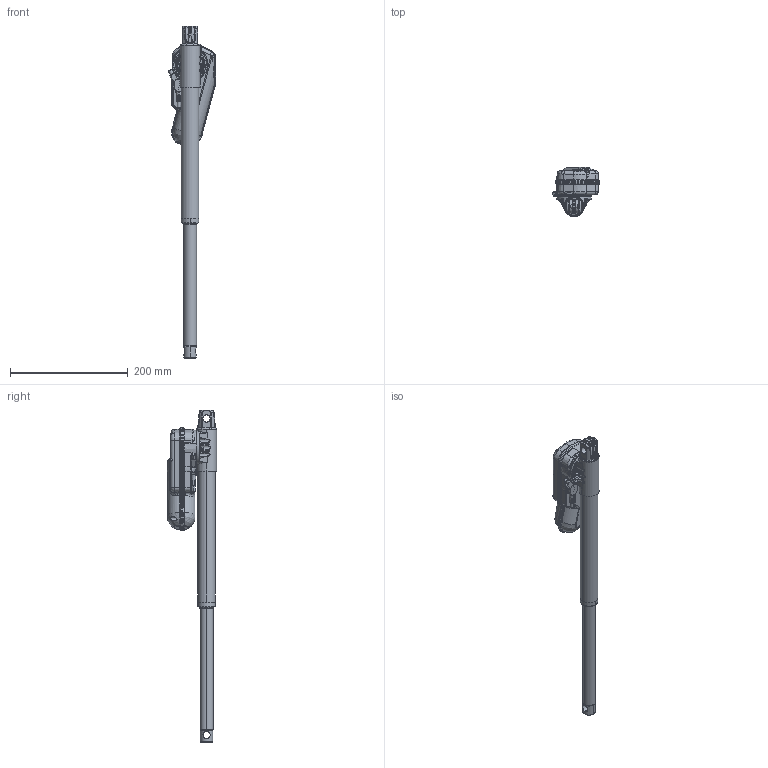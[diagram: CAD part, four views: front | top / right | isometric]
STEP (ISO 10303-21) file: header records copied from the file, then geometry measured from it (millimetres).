
FILE_DESCRIPTION((''),'2;1');
FILE_NAME('1068W4011_ASM','2023-06-12T12:17:47',('ulj'),(''),'CREO PARAMETRIC BY PTC INC, 2022024','CREO PARAMETRIC BY PTC INC, 2022024','');
FILE_SCHEMA(('AUTOMOTIVE_DESIGN { 1 0 10303 214 1 1 1 1 }'));
Length unit declared in the file: millimetre
Products named in the file (9): 1068W4011-MO; 1068W4011-PR; 1068W4011-OT; 1068W4011-BF; 1068W4011-BODY; 1068W7001; 1068W7005; 0002368; 1068W4011_ASM
Assembly tree (10 placements, depth 2):
  1068W4011_ASM
    1068W4011-MO
    1068W4011-PR
    1068W4011-OT
    1068W4011-BF
    1068W4011-BODY
    1068W7001
    1068W7005
    0002368  x3
Bounding box: 80.55 x 83.5 x 563.4 mm (x, y, z)
Volume: 866612.6 mm3; surface area: 132076 mm2
Topology: 10 solids, 11 shells, 5794 faces, 14254 edges, 8611 vertices
Faces by surface type: plane 2087, bspline 1536, cylinder 789, torus 550, cone 471, sphere 217, extrusion 144
Entity records: 258499 total; most frequent: CARTESIAN_POINT 130552, ORIENTED_EDGE 27514, DIRECTION 22068, EDGE_CURVE 13757, VERTEX_POINT 8307, AXIS2_PLACEMENT_3D 8023, VECTOR 6022, LINE 5926
